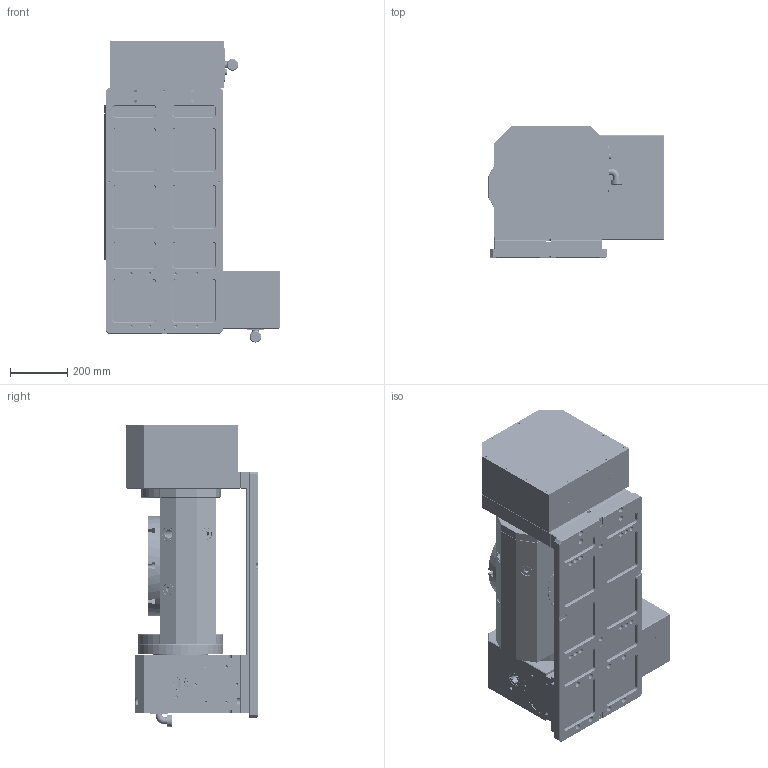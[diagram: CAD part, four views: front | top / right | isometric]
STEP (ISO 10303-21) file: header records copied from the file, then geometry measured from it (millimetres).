
FILE_DESCRIPTION (( 'STEP AP203' ), '1' );
FILE_NAME ('WDS-RT350 軞蚾饜芞 REV.01.STEP', '2022-09-21T05:39:51', ( '' ), ( '' ), 'SwSTEP 2.0', 'SolidWorks 2021', '' );
FILE_SCHEMA (( 'CONFIG_CONTROL_DESIGN' ));
Length unit declared in the file: millimetre
Products named in the file (1): WDS-RT350 軞蚾饜芞 REV.01
Bounding box: 615.5 x 460 x 1056.5 mm (x, y, z)
Volume: 78212751.1 mm3; surface area: 6551569.7 mm2
Topology: 23 solids, 41 shells, 4319 faces, 10442 edges, 6141 vertices
Faces by surface type: cylinder 2038, cone 1096, plane 1035, torus 134, bspline 16
Entity records: 126164 total; most frequent: CARTESIAN_POINT 24386, DIRECTION 22945, ORIENTED_EDGE 19560, EDGE_CURVE 9780, AXIS2_PLACEMENT_3D 9090, VERTEX_POINT 6141, EDGE_LOOP 5481, CIRCLE 4786
